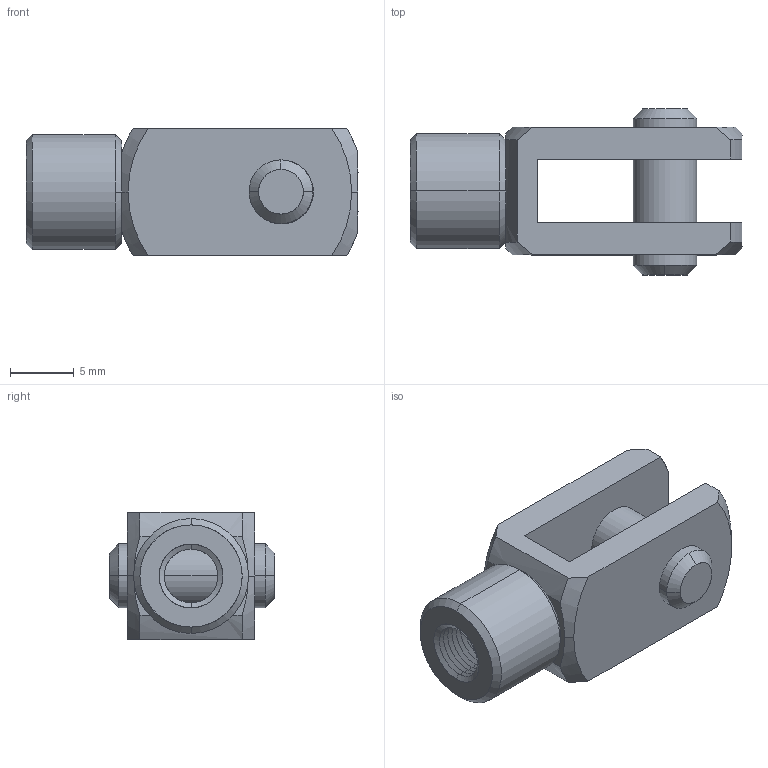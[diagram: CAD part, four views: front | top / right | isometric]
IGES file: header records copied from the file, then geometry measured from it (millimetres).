
Start section: SolidWorks IGES file using analytic representation for surfaces
Bounding box: 26 x 13 x 10 mm (x, y, z)
Surface area: 1513.8 mm2 (no closed solid volume)
Topology: 0 solids, 0 shells, 75 faces, 681 edges, 681 vertices
Faces by surface type: revolution 61, bspline 14
